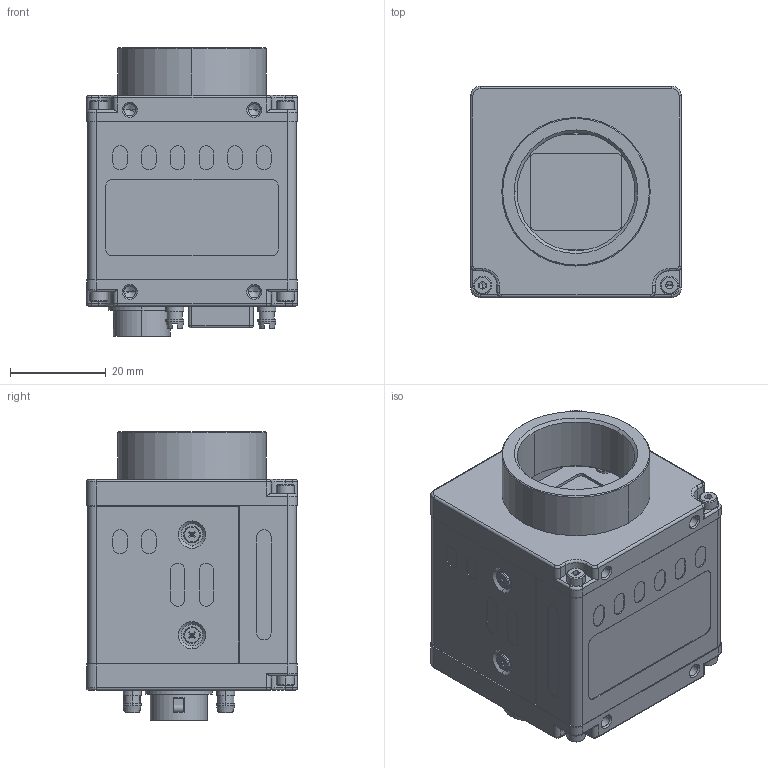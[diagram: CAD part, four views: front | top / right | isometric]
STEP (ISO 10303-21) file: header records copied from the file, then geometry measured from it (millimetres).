
FILE_DESCRIPTION((''),'2;1');
FILE_NAME('SP-12400_PMCL_MOCK','2018-05-22T',('aso'),(''),'CREO PARAMETRIC BY PTC INC, 2016260','CREO PARAMETRIC BY PTC INC, 2016260','');
FILE_SCHEMA(('CONFIG_CONTROL_DESIGN'));
Products named in the file (1): SP-12400_PMCL_MOCK
Bounding box: 44 x 44 x 60.3 mm (x, y, z)
Volume: 78611.1 mm3; surface area: 25816.7 mm2
Topology: 2 solids, 48 shells, 3356 faces, 8764 edges, 5615 vertices
Faces by surface type: plane 2075, cylinder 817, cone 242, bspline 113, torus 65, sphere 44
Entity records: 109788 total; most frequent: CARTESIAN_POINT 27970, ORIENTED_EDGE 17248, DIRECTION 16429, EDGE_CURVE 8651, VECTOR 6029, LINE 6029, VERTEX_POINT 5596, AXIS2_PLACEMENT_3D 5200
